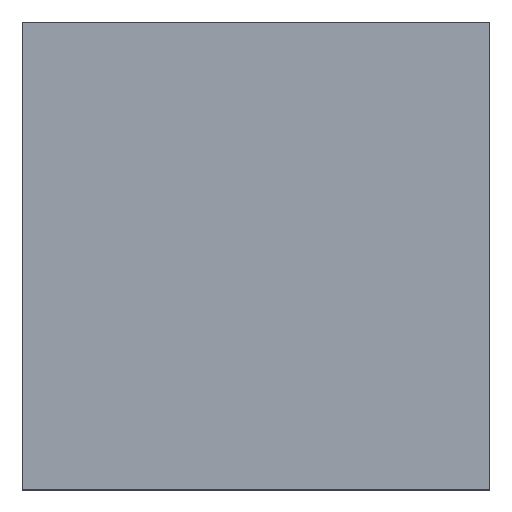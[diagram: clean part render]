
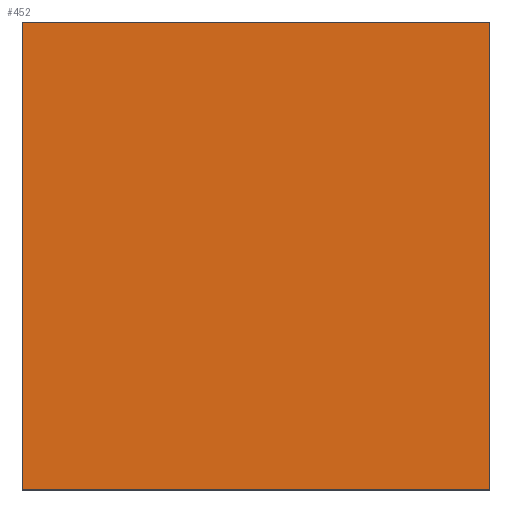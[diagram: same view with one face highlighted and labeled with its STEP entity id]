
A CAD part, top view. The second image highlights one B-rep face of the part: STEP entity #452.
In plain terms, the highlighted planar face has unit normal (0, 0, 1).
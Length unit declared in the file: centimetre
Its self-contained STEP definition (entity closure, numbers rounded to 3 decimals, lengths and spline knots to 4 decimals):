
#12 = LINE ( 'NONE', #164, #613 ) ;
#13 = ORIENTED_EDGE ( 'NONE', *, *, #205, .T. ) ;
#21 = CARTESIAN_POINT ( 'NONE',  ( 0., 0., 1000. ) ) ;
#49 = VECTOR ( 'NONE', #189, 100. ) ;
#133 = DIRECTION ( 'NONE',  ( 0., -1., 0. ) ) ;
#164 = CARTESIAN_POINT ( 'NONE',  ( 1000., 1000., 1000. ) ) ;
#177 = VECTOR ( 'NONE', #133, 100. ) ;
#178 = AXIS2_PLACEMENT_3D ( 'NONE', #513, #258, #564 ) ;
#184 = CARTESIAN_POINT ( 'NONE',  ( 0., 1000., 1000. ) ) ;
#189 = DIRECTION ( 'NONE',  ( 1., 0., 0. ) ) ;
#205 = EDGE_CURVE ( 'NONE', #335, #254, #12, .T. ) ;
#218 = VERTEX_POINT ( 'NONE', #394 ) ;
#254 = VERTEX_POINT ( 'NONE', #441 ) ;
#258 = DIRECTION ( 'NONE',  ( 0., 0., 1. ) ) ;
#262 = PLANE ( 'NONE',  #178 ) ;
#298 = ORIENTED_EDGE ( 'NONE', *, *, #438, .T. ) ;
#303 = CARTESIAN_POINT ( 'NONE',  ( 1000., 0., 1000. ) ) ;
#335 = VERTEX_POINT ( 'NONE', #303 ) ;
#343 = DIRECTION ( 'NONE',  ( 0., 1., 0. ) ) ;
#369 = CARTESIAN_POINT ( 'NONE',  ( 0., 1000., 1000. ) ) ;
#393 = EDGE_CURVE ( 'NONE', #218, #473, #400, .T. ) ;
#394 = CARTESIAN_POINT ( 'NONE',  ( 0., 1000., 1000. ) ) ;
#400 = LINE ( 'NONE', #184, #177 ) ;
#407 = ORIENTED_EDGE ( 'NONE', *, *, #393, .T. ) ;
#411 = LINE ( 'NONE', #369, #684 ) ;
#438 = EDGE_CURVE ( 'NONE', #473, #335, #665, .T. ) ;
#441 = CARTESIAN_POINT ( 'NONE',  ( 1000., 1000., 1000. ) ) ;
#445 = FACE_OUTER_BOUND ( 'NONE', #488, .T. ) ;
#452 = ADVANCED_FACE ( 'NONE', ( #445 ), #262, .T. ) ;
#473 = VERTEX_POINT ( 'NONE', #624 ) ;
#488 = EDGE_LOOP ( 'NONE', ( #407, #298, #13, #660 ) ) ;
#508 = EDGE_CURVE ( 'NONE', #254, #218, #411, .T. ) ;
#513 = CARTESIAN_POINT ( 'NONE',  ( 0., 0., 1000. ) ) ;
#564 = DIRECTION ( 'NONE',  ( 1., 0., 0. ) ) ;
#613 = VECTOR ( 'NONE', #343, 100. ) ;
#624 = CARTESIAN_POINT ( 'NONE',  ( 0., 0., 1000. ) ) ;
#660 = ORIENTED_EDGE ( 'NONE', *, *, #508, .T. ) ;
#665 = LINE ( 'NONE', #21, #49 ) ;
#684 = VECTOR ( 'NONE', #689, 100. ) ;
#689 = DIRECTION ( 'NONE',  ( -1., 0., 0. ) ) ;
